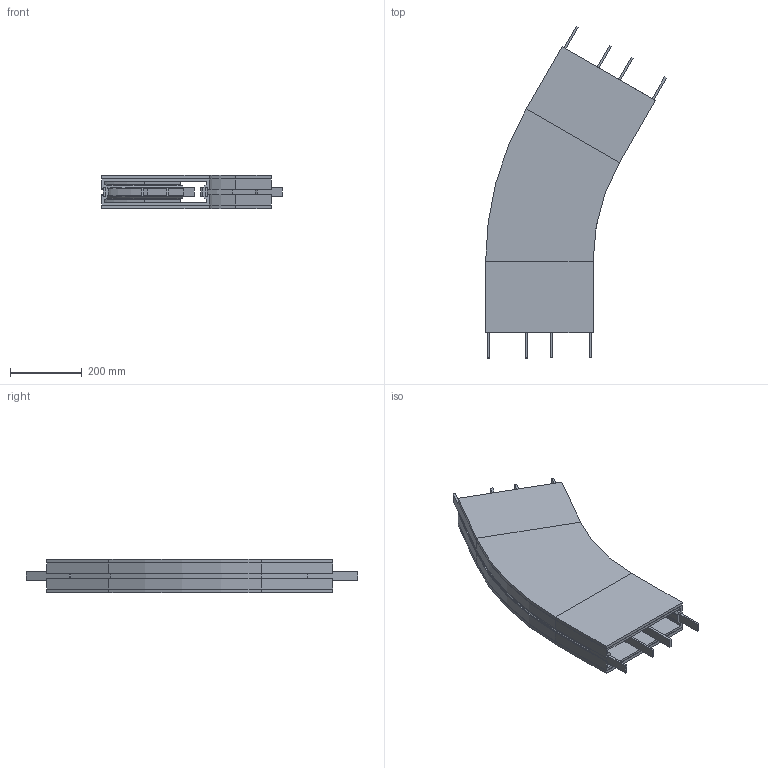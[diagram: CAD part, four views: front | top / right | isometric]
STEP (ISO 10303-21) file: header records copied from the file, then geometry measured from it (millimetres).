
FILE_DESCRIPTION (( 'STEP AP214' ), '1' );
FILE_NAME ('FBBP 30A300R700L200L200.00.step', '2026-05-29T10:20:26', ( '' ), ( '' ), 'SwSTEP 2.0', 'SolidWorks 2024', '' );
FILE_SCHEMA (( 'AUTOMOTIVE_DESIGN' ));
Length unit declared in the file: millimetre
Products named in the file (1): FBBP 30A300R700L200L200.00
Bounding box: 504.49 x 926.4 x 93 mm (x, y, z)
Volume: 8445415.2 mm3; surface area: 2223499.9 mm2
Topology: 11 solids, 11 shells, 375 faces, 845 edges, 492 vertices
Faces by surface type: plane 274, cone 66, cylinder 30, torus 5
Entity records: 10191 total; most frequent: DIRECTION 1724, CARTESIAN_POINT 1713, ORIENTED_EDGE 1690, EDGE_CURVE 845, LINE 718, VECTOR 718, AXIS2_PLACEMENT_3D 503, VERTEX_POINT 492
